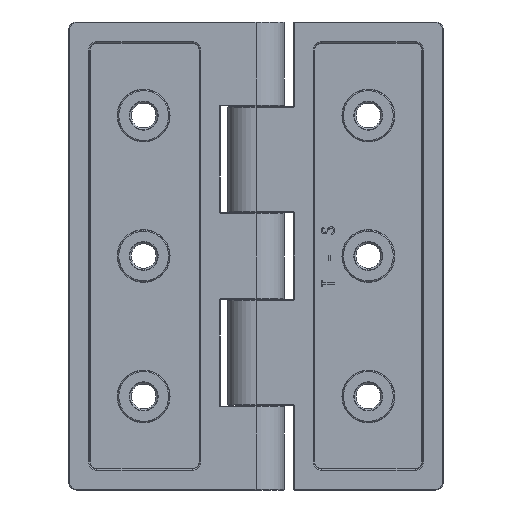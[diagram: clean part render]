
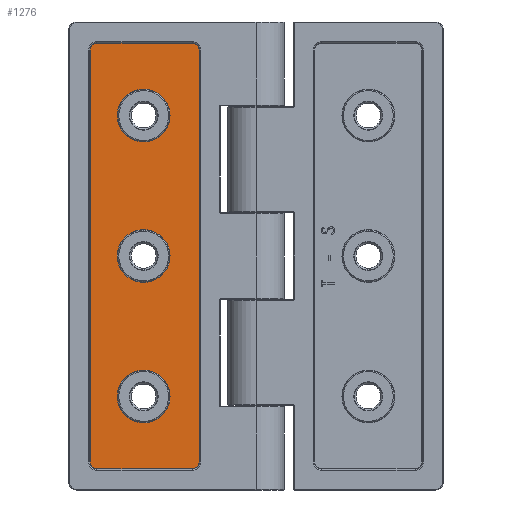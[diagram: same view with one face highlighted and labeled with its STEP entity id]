
A CAD part, front view. The second image highlights one B-rep face of the part: STEP entity #1276.
In plain terms, the highlighted planar face has unit normal (0, -1, 0).
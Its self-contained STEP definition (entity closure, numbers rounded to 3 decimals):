
#76 = CARTESIAN_POINT ( 'NONE',  ( -1.25, 2.2, -44.55 ) ) ;
#133 = AXIS2_PLACEMENT_3D ( 'NONE', #159, #168, #177 ) ;
#134 = CIRCLE ( 'NONE', #133, 7.05 ) ;
#135 = CARTESIAN_POINT ( 'NONE',  ( -1.25, 2.2, -7.05 ) ) ;
#159 = CARTESIAN_POINT ( 'NONE',  ( -1.25, 2.2, 0. ) ) ;
#164 = CARTESIAN_POINT ( 'NONE',  ( -1.25, 2.2, 7.05 ) ) ;
#168 = DIRECTION ( 'NONE',  ( 0., 1., 0. ) ) ;
#177 = DIRECTION ( 'NONE',  ( 0., 0., -1. ) ) ;
#197 = CIRCLE ( 'NONE', #258, 7.05 ) ;
#205 = DIRECTION ( 'NONE',  ( 0., 0., -1. ) ) ;
#206 = DIRECTION ( 'NONE',  ( 0., 1., 0. ) ) ;
#210 = CARTESIAN_POINT ( 'NONE',  ( -1.25, 2.2, 44.55 ) ) ;
#216 = CARTESIAN_POINT ( 'NONE',  ( -1.25, 2.2, -37.5 ) ) ;
#218 = AXIS2_PLACEMENT_3D ( 'NONE', #216, #206, #205 ) ;
#223 = CARTESIAN_POINT ( 'NONE',  ( -1.25, 2.2, 30.45 ) ) ;
#256 = DIRECTION ( 'NONE',  ( 0., 0., -1. ) ) ;
#257 = DIRECTION ( 'NONE',  ( 0., 1., 0. ) ) ;
#258 = AXIS2_PLACEMENT_3D ( 'NONE', #270, #257, #256 ) ;
#270 = CARTESIAN_POINT ( 'NONE',  ( -1.25, 2.2, 37.5 ) ) ;
#275 = CIRCLE ( 'NONE', #218, 7.05 ) ;
#1210 = VERTEX_POINT ( 'NONE', #6802 ) ;
#1212 = ORIENTED_EDGE ( 'NONE', *, *, #1281, .T. ) ;
#1213 = EDGE_CURVE ( 'NONE', #1269, #1210, #6866, .T. ) ;
#1214 = EDGE_CURVE ( 'NONE', #1317, #1269, #6872, .T. ) ;
#1229 = VERTEX_POINT ( 'NONE', #6773 ) ;
#1243 = EDGE_CURVE ( 'NONE', #1258, #1229, #6739, .T. ) ;
#1245 = EDGE_LOOP ( 'NONE', ( #1322, #1290 ) ) ;
#1246 = ORIENTED_EDGE ( 'NONE', *, *, #1250, .T. ) ;
#1247 = ORIENTED_EDGE ( 'NONE', *, *, #4484, .T. ) ;
#1249 = EDGE_LOOP ( 'NONE', ( #1247, #1246 ) ) ;
#1250 = EDGE_CURVE ( 'NONE', #4211, #4426, #6734, .T. ) ;
#1251 = EDGE_CURVE ( 'NONE', #4447, #4448, #6719, .T. ) ;
#1256 = ORIENTED_EDGE ( 'NONE', *, *, #1243, .T. ) ;
#1257 = ORIENTED_EDGE ( 'NONE', *, *, #1283, .T. ) ;
#1258 = VERTEX_POINT ( 'NONE', #6741 ) ;
#1266 = ORIENTED_EDGE ( 'NONE', *, *, #1214, .T. ) ;
#1269 = VERTEX_POINT ( 'NONE', #6836 ) ;
#1275 = ORIENTED_EDGE ( 'NONE', *, *, #1329, .T. ) ;
#1276 = ADVANCED_FACE ( 'NONE', ( #6750, #6801, #6855, #6860 ), #6851, .T. ) ;
#1279 = VERTEX_POINT ( 'NONE', #6849 ) ;
#1281 = EDGE_CURVE ( 'NONE', #1210, #1279, #6814, .T. ) ;
#1283 = EDGE_CURVE ( 'NONE', #1279, #1258, #6848, .T. ) ;
#1289 = ORIENTED_EDGE ( 'NONE', *, *, #4432, .T. ) ;
#1290 = ORIENTED_EDGE ( 'NONE', *, *, #1320, .T. ) ;
#1295 = VERTEX_POINT ( 'NONE', #6920 ) ;
#1296 = EDGE_LOOP ( 'NONE', ( #1289, #1324 ) ) ;
#1297 = VERTEX_POINT ( 'NONE', #6897 ) ;
#1306 = ORIENTED_EDGE ( 'NONE', *, *, #1331, .T. ) ;
#1316 = ORIENTED_EDGE ( 'NONE', *, *, #1213, .T. ) ;
#1317 = VERTEX_POINT ( 'NONE', #6925 ) ;
#1320 = EDGE_CURVE ( 'NONE', #4489, #4509, #7012, .T. ) ;
#1322 = ORIENTED_EDGE ( 'NONE', *, *, #4505, .T. ) ;
#1323 = ORIENTED_EDGE ( 'NONE', *, *, #1325, .T. ) ;
#1324 = ORIENTED_EDGE ( 'NONE', *, *, #1251, .T. ) ;
#1325 = EDGE_CURVE ( 'NONE', #1295, #1317, #7019, .T. ) ;
#1329 = EDGE_CURVE ( 'NONE', #1229, #1297, #6929, .T. ) ;
#1331 = EDGE_CURVE ( 'NONE', #1297, #1295, #6895, .T. ) ;
#1338 = EDGE_LOOP ( 'NONE', ( #1266, #1316, #1212, #1257, #1256, #1275, #1306, #1323 ) ) ;
#4211 = VERTEX_POINT ( 'NONE', #12864 ) ;
#4426 = VERTEX_POINT ( 'NONE', #76 ) ;
#4432 = EDGE_CURVE ( 'NONE', #4448, #4447, #134, .T. ) ;
#4447 = VERTEX_POINT ( 'NONE', #164 ) ;
#4448 = VERTEX_POINT ( 'NONE', #135 ) ;
#4484 = EDGE_CURVE ( 'NONE', #4426, #4211, #275, .T. ) ;
#4489 = VERTEX_POINT ( 'NONE', #210 ) ;
#4505 = EDGE_CURVE ( 'NONE', #4509, #4489, #197, .T. ) ;
#4509 = VERTEX_POINT ( 'NONE', #223 ) ;
#6711 = DIRECTION ( 'NONE',  ( 0., 1., 0. ) ) ;
#6719 = CIRCLE ( 'NONE', #6730, 7.05 ) ;
#6724 = CARTESIAN_POINT ( 'NONE',  ( 11.75, 2.2, -55. ) ) ;
#6729 = CARTESIAN_POINT ( 'NONE',  ( -1.25, 2.2, 0. ) ) ;
#6730 = AXIS2_PLACEMENT_3D ( 'NONE', #6729, #6711, #6844 ) ;
#6731 = DIRECTION ( 'NONE',  ( 0., 0., -1. ) ) ;
#6732 = DIRECTION ( 'NONE',  ( 0., 1., 0. ) ) ;
#6733 = AXIS2_PLACEMENT_3D ( 'NONE', #6776, #6732, #6731 ) ;
#6734 = CIRCLE ( 'NONE', #6733, 7.05 ) ;
#6735 = DIRECTION ( 'NONE',  ( 0., 0., -1. ) ) ;
#6736 = DIRECTION ( 'NONE',  ( 0., -1., 0. ) ) ;
#6737 = CARTESIAN_POINT ( 'NONE',  ( -13.75, 2.2, 55. ) ) ;
#6738 = AXIS2_PLACEMENT_3D ( 'NONE', #6737, #6736, #6735 ) ;
#6739 = CIRCLE ( 'NONE', #6738, 1.8 ) ;
#6741 = CARTESIAN_POINT ( 'NONE',  ( -13.75, 2.2, 56.8 ) ) ;
#6750 = FACE_OUTER_BOUND ( 'NONE', #1338, .T. ) ;
#6751 = DIRECTION ( 'NONE',  ( 0., 0., -1. ) ) ;
#6754 = CARTESIAN_POINT ( 'NONE',  ( -15.75, 2.2, -57. ) ) ;
#6763 = DIRECTION ( 'NONE',  ( 0., 0., -1. ) ) ;
#6764 = DIRECTION ( 'NONE',  ( 0., -1., 0. ) ) ;
#6768 = DIRECTION ( 'NONE',  ( 0., 0., 1. ) ) ;
#6769 = VECTOR ( 'NONE', #6768, 1000. ) ;
#6773 = CARTESIAN_POINT ( 'NONE',  ( -15.55, 2.2, 55. ) ) ;
#6776 = CARTESIAN_POINT ( 'NONE',  ( -1.25, 2.2, -37.5 ) ) ;
#6793 = DIRECTION ( 'NONE',  ( 0., 0., -1. ) ) ;
#6794 = DIRECTION ( 'NONE',  ( 0., -1., 0. ) ) ;
#6795 = CARTESIAN_POINT ( 'NONE',  ( 11.75, 2.2, 55. ) ) ;
#6796 = AXIS2_PLACEMENT_3D ( 'NONE', #6795, #6794, #6793 ) ;
#6801 = FACE_BOUND ( 'NONE', #1245, .T. ) ;
#6802 = CARTESIAN_POINT ( 'NONE',  ( 13.55, 2.2, 55. ) ) ;
#6814 = CIRCLE ( 'NONE', #6796, 1.8 ) ;
#6833 = DIRECTION ( 'NONE',  ( -1., 0., 0. ) ) ;
#6834 = VECTOR ( 'NONE', #6833, 1000. ) ;
#6835 = CARTESIAN_POINT ( 'NONE',  ( -15.75, 2.2, 56.8 ) ) ;
#6836 = CARTESIAN_POINT ( 'NONE',  ( 13.55, 2.2, -55. ) ) ;
#6844 = DIRECTION ( 'NONE',  ( 0., 0., -1. ) ) ;
#6848 = LINE ( 'NONE', #6835, #6834 ) ;
#6849 = CARTESIAN_POINT ( 'NONE',  ( 11.75, 2.2, 56.8 ) ) ;
#6851 = PLANE ( 'NONE',  #6857 ) ;
#6855 = FACE_BOUND ( 'NONE', #1296, .T. ) ;
#6857 = AXIS2_PLACEMENT_3D ( 'NONE', #6754, #6859, #6751 ) ;
#6859 = DIRECTION ( 'NONE',  ( 0., -1., 0. ) ) ;
#6860 = FACE_BOUND ( 'NONE', #1249, .T. ) ;
#6865 = CARTESIAN_POINT ( 'NONE',  ( 13.55, 2.2, -57. ) ) ;
#6866 = LINE ( 'NONE', #6865, #6769 ) ;
#6867 = AXIS2_PLACEMENT_3D ( 'NONE', #6724, #6764, #6763 ) ;
#6872 = CIRCLE ( 'NONE', #6867, 1.8 ) ;
#6895 = CIRCLE ( 'NONE', #6935, 1.8 ) ;
#6897 = CARTESIAN_POINT ( 'NONE',  ( -15.55, 2.2, -55. ) ) ;
#6912 = CARTESIAN_POINT ( 'NONE',  ( -15.55, 2.2, -57. ) ) ;
#6914 = CARTESIAN_POINT ( 'NONE',  ( -13.75, 2.2, -55. ) ) ;
#6920 = CARTESIAN_POINT ( 'NONE',  ( -13.75, 2.2, -56.8 ) ) ;
#6925 = CARTESIAN_POINT ( 'NONE',  ( 11.75, 2.2, -56.8 ) ) ;
#6929 = LINE ( 'NONE', #6912, #6987 ) ;
#6930 = DIRECTION ( 'NONE',  ( 1., 0., 0. ) ) ;
#6933 = DIRECTION ( 'NONE',  ( 0., 0., -1. ) ) ;
#6934 = DIRECTION ( 'NONE',  ( 0., -1., 0. ) ) ;
#6935 = AXIS2_PLACEMENT_3D ( 'NONE', #6914, #6934, #6933 ) ;
#6968 = AXIS2_PLACEMENT_3D ( 'NONE', #7008, #7007, #7023 ) ;
#6987 = VECTOR ( 'NONE', #7011, 1000. ) ;
#7007 = DIRECTION ( 'NONE',  ( 0., 1., 0. ) ) ;
#7008 = CARTESIAN_POINT ( 'NONE',  ( -1.25, 2.2, 37.5 ) ) ;
#7009 = VECTOR ( 'NONE', #6930, 1000. ) ;
#7011 = DIRECTION ( 'NONE',  ( 0., 0., -1. ) ) ;
#7012 = CIRCLE ( 'NONE', #6968, 7.05 ) ;
#7018 = CARTESIAN_POINT ( 'NONE',  ( -15.75, 2.2, -56.8 ) ) ;
#7019 = LINE ( 'NONE', #7018, #7009 ) ;
#7023 = DIRECTION ( 'NONE',  ( 0., 0., -1. ) ) ;
#12864 = CARTESIAN_POINT ( 'NONE',  ( -1.25, 2.2, -30.45 ) ) ;
